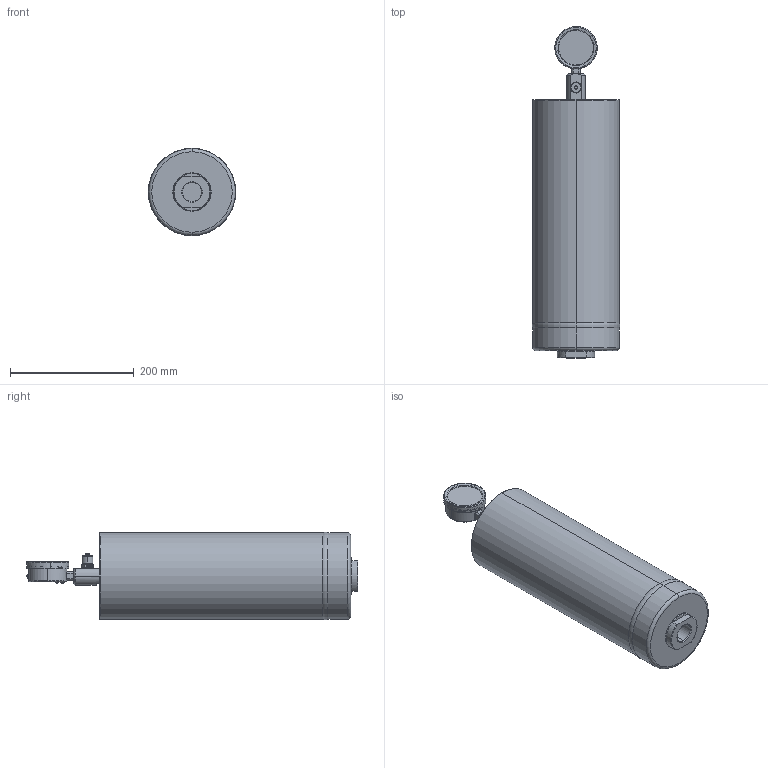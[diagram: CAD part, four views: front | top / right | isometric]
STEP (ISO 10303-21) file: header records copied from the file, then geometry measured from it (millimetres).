
FILE_DESCRIPTION (( 'STEP AP214' ), '1' );
FILE_NAME ('U040G11X1-AI (DGA).STEP', '2025-05-14T15:19:53', ( '' ), ( '' ), 'SwSTEP 2.0', 'SolidWorks 2024', '' );
FILE_SCHEMA (( 'AUTOMOTIVE_DESIGN' ));
Length unit declared in the file: millimetre
Products named in the file (1): U040G11X1-AI (DGA)
Bounding box: 141.27 x 536.45 x 141.27 mm (x, y, z)
Surface area: 264964.4 mm2 (no closed solid volume)
Topology: 0 solids, 16 shells, 446 faces, 1130 edges, 701 vertices
Faces by surface type: plane 142, cylinder 127, cone 65, torus 62, bspline 36, sphere 14
Entity records: 18965 total; most frequent: CARTESIAN_POINT 3335, DIRECTION 2328, ORIENTED_EDGE 2083, EDGE_CURVE 1116, AXIS2_PLACEMENT_3D 948, VERTEX_POINT 701, CIRCLE 537, EDGE_LOOP 508
